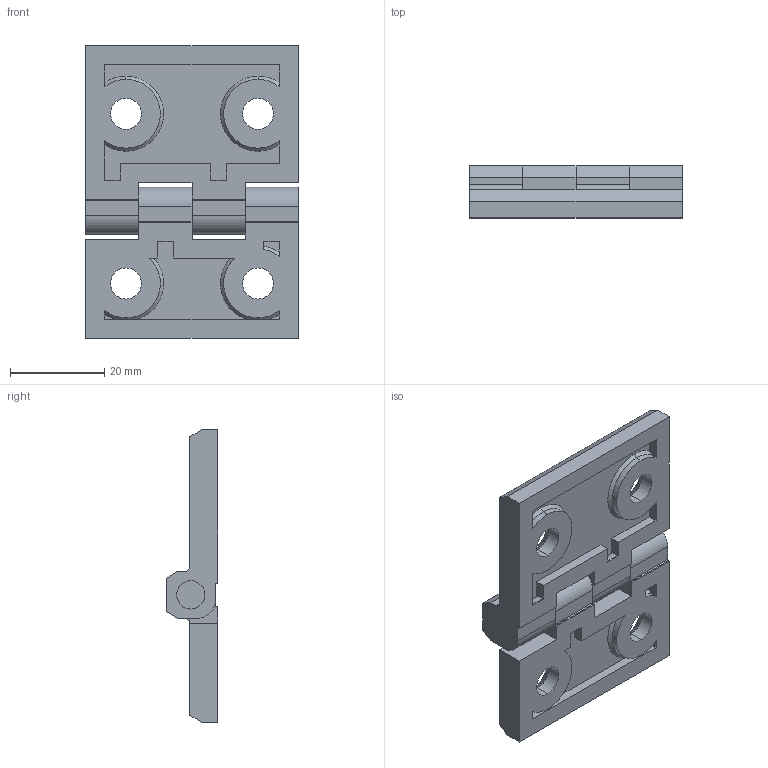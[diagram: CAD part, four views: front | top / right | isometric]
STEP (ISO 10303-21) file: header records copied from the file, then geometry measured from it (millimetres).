
FILE_DESCRIPTION (( 'STEP AP203' ), '1' );
FILE_NAME ('B01-3040B.STEP', '2024-10-28T08:46:58', ( '' ), ( '' ), 'SwSTEP 2.0', 'SolidWorks 2021', '' );
FILE_SCHEMA (( 'CONFIG_CONTROL_DESIGN' ));
Length unit declared in the file: millimetre
Products named in the file (4): B01-3040B; B01-30; B01-40; B01-軸心
Assembly tree (3 placements, depth 2):
  B01-3040B
    B01-30
    B01-40
    B01-軸心
Bounding box: 45 x 11 x 62 mm (x, y, z)
Volume: 15293.7 mm3; surface area: 10358.3 mm2
Topology: 3 solids, 3 shells, 140 faces, 375 edges, 244 vertices
Faces by surface type: plane 80, cylinder 43, cone 17
Entity records: 4824 total; most frequent: CARTESIAN_POINT 807, DIRECTION 760, ORIENTED_EDGE 750, EDGE_CURVE 375, VECTOR 258, LINE 258, AXIS2_PLACEMENT_3D 251, VERTEX_POINT 244
